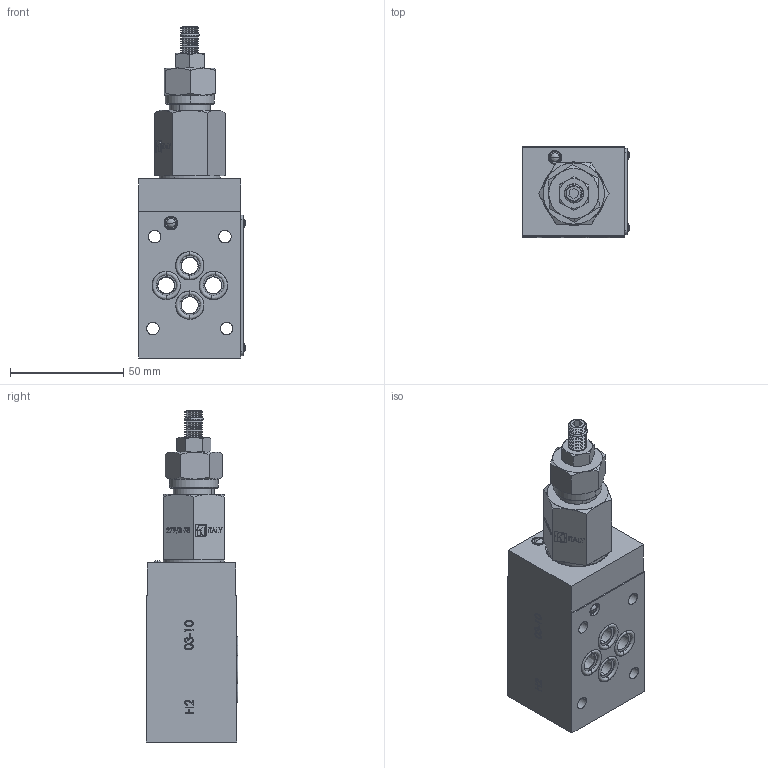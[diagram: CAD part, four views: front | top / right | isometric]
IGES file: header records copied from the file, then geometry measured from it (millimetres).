
Start section: SolidWorks IGES file using analytic representation for surfaces
Global section: file name: C:\Users\user\Desktop\FT379-3-A-03.IGS; native system: SolidWorks 2014; preprocessor: SolidWorks 2014; author: user; date: 140618.140946; units: millimetre
Bounding box: 46.96 x 40.38 x 146.41 mm (x, y, z)
Surface area: 53527.1 mm2 (no closed solid volume)
Topology: 0 solids, 0 shells, 2327 faces, 25857 edges, 25837 vertices
Faces by surface type: bspline 1648, revolution 679
